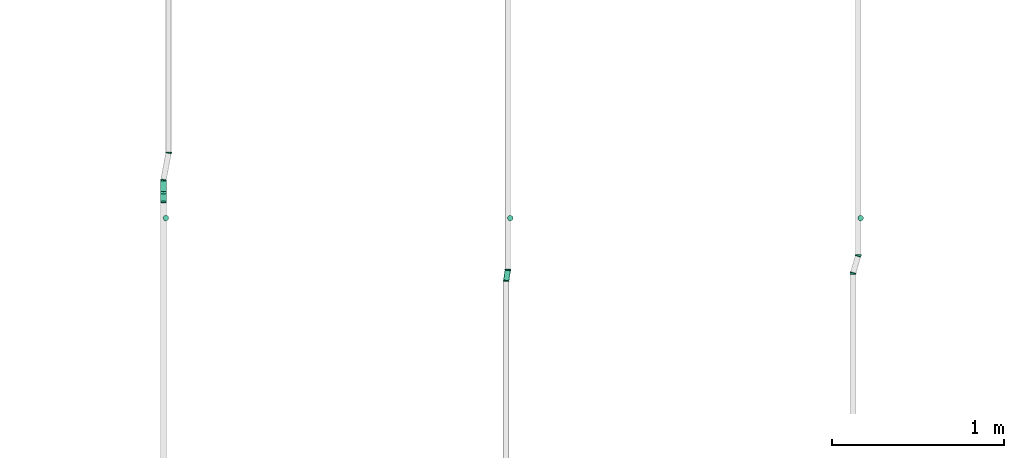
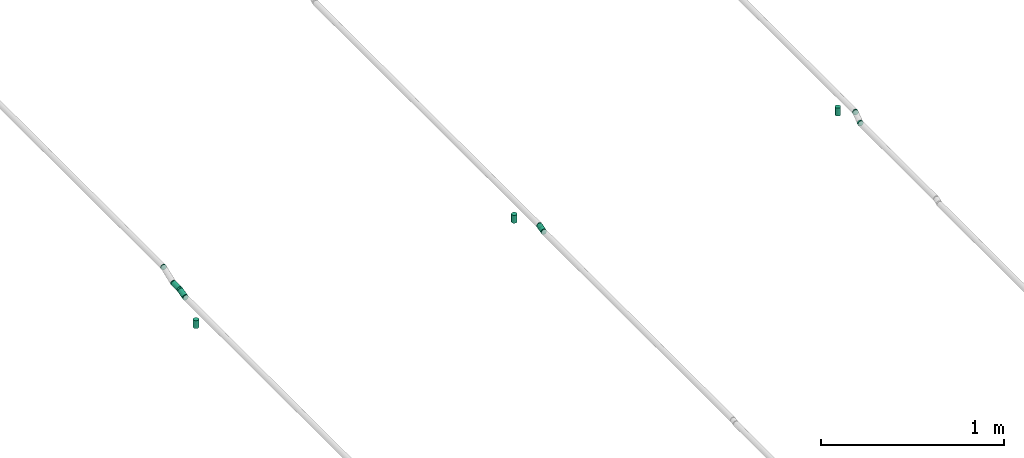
# One storey, part 20 of 32: 8 flow fittings, 3 flow segments, 3 flow terminals.
"""IFC2X3 building model written with IfcOpenShell, lengths in millimetres."""

from ifc_helpers import new_model, entity, si_unit, converted_unit, derived_unit, direction, frame, origin_with_axes, origin_2d_with_axis, place, context, subcontext, project, spatial, hollow_circle, extrude, open_shell, surface_model, source, transform, mapped, type_object, element, save


model = new_model("IFC2X3")

# Units and contexts
model_context = context("Model", 3, precision=0.01, world=frame((0.0, 4.29681676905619e-09, 0.0)), true_north=direction((4.01073788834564e-13, 1.0)))
plan_context = context("Plan", 3, precision=0.01, world=frame((0.0, 4.29681676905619e-09, 0.0)), true_north=direction((4.01073788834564e-13, 1.0)))
body_context = subcontext(model_context, "Body", "Model", "MODEL_VIEW")
ifc_project = project(units=[converted_unit("PLANEANGLEUNIT", "DEGREE", entity("IfcPositiveLengthMeasure", 0.0174532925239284), si_unit("PLANEANGLEUNIT", "RADIAN"), dimensions=[0, 0, 0, 0, 0, 0, 0]), si_unit("AREAUNIT", "SQUARE_METRE"), si_unit("LENGTHUNIT", "METRE", prefix="MILLI"), si_unit("MASSUNIT", "GRAM", prefix="KILO"), si_unit("POWERUNIT", "WATT"), si_unit("PRESSUREUNIT", "PASCAL", prefix="KILO"), si_unit("FORCEUNIT", "NEWTON", prefix="KILO"), si_unit("ELECTRICVOLTAGEUNIT", "VOLT"), si_unit("ELECTRICCURRENTUNIT", "AMPERE"), si_unit("THERMODYNAMICTEMPERATUREUNIT", "DEGREE_CELSIUS"), si_unit("TIMEUNIT", "SECOND"), si_unit("VOLUMEUNIT", "CUBIC_METRE"), derived_unit("LINEARVELOCITYUNIT", [(si_unit("LENGTHUNIT", "METRE"), 1), (si_unit("TIMEUNIT", "SECOND"), -1)]), derived_unit("VOLUMETRICFLOWRATEUNIT", [(si_unit("VOLUMEUNIT", "CUBIC_METRE"), 1), (si_unit("TIMEUNIT", "SECOND"), -1)]), derived_unit("THERMALTRANSMITTANCEUNIT", [(si_unit("POWERUNIT", "WATT"), 1), (si_unit("THERMODYNAMICTEMPERATUREUNIT", "KELVIN"), -1), (si_unit("AREAUNIT", "SQUARE_METRE"), -1)]), derived_unit("SOUNDPRESSUREUNIT", [(si_unit("PRESSUREUNIT", "PASCAL"), 1)])], contexts=[model_context, plan_context])

# Site, building, storey
site_placement = place(None, frame((0.0, -4.29681676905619e-09, 0.0), z_axis=(0.0, 0.0, 1.0), x_axis=(1.0, 0.0, 0.0)))
site = spatial("IfcSite", under=ifc_project, at=site_placement, CompositionType="ELEMENT")
building_placement = place(site_placement, frame((0.0, 4.29681676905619e-09, 0.0), z_axis=(0.0, 0.0, 1.0), x_axis=(1.0, 0.0, 0.0)))
building = spatial("IfcBuilding", under=site, at=building_placement, Name="mc-building", CompositionType="ELEMENT")
storey_placement = place(building_placement, frame((0.0, 0.0, 205200.0), z_axis=(0.0, 0.0, 1.0), x_axis=(1.0, 0.0, 0.0)))
storey = spatial("IfcBuildingStorey", under=building, at=storey_placement, Name="Nivå D + 1,2 m", CompositionType="ELEMENT", Elevation=205200.0)

# Flow fittings
pipe_fitting_type = type_object("IfcPipeFittingType", Name="magi_pipe_fe_elbow_short_001", PredefinedType="BEND")
shared_shape_1 = source(origin_with_axes(), body_context, "Body", "SurfaceModel", [
    surface_model("IfcShellBasedSurfaceModel", [(-3.14138, 4.37404, -16.32415), (-3.14138, 0.0, -16.9), (-3.14138, 11.9501, -11.9501), (-3.14138, 8.45, -14.63583), (-3.14138, 16.32415, -4.37404), (-3.14138, 14.63583, -8.45), (-3.14138, -14.63583, -8.45), (-3.14138, -16.32415, -4.37404), (-3.14138, -8.45, 14.63583), (-3.14138, -11.9501, -11.9501), (-3.14138, -8.45, -14.63583), (-3.14138, -4.37404, -16.32415), (-3.14138, -16.9, 0.0), (-3.14138, -16.32415, 4.37404), (-3.14138, 11.9501, 11.9501), (-3.14138, 16.32415, 4.37404), (-3.14138, 14.63583, 8.45), (-3.14138, 4.37404, 16.32415), (-3.14138, 8.45, 14.63583), (-3.14138, -14.63583, 8.45), (-3.14138, -11.9501, 11.9501), (-3.14138, -4.37404, 16.32415), (-3.14138, 0.0, 16.9), (-3.14138, 16.9, 0.0), (0.07922, 16.62347, -4.37404), (3.08757, 0.57892, -16.9), (2.28149, 4.87804, -16.32415), (1.53034, 8.88419, -14.63583), (0.39036, 14.96407, -8.45), (0.88531, 12.32435, -11.9501), (6.09593, -15.46563, -4.37404), (4.64481, -7.72635, -14.63583), (5.78479, -13.80623, -8.45), (5.28984, -11.16651, -11.9501), (3.89366, -3.7202, -16.32415), (6.09593, -15.46563, 4.37404), (6.20205, -16.03162, 0.0), (0.88531, 12.32435, 11.9501), (0.07922, 16.62347, 4.37404), (0.39036, 14.96407, 8.45), (1.53034, 8.88419, 14.63583), (2.28149, 4.87804, 16.32415), (4.64481, -7.72635, 14.63583), (5.28984, -11.16651, 11.9501), (5.78479, -13.80623, 8.45), (3.08757, 0.57892, 16.9), (3.89366, -3.7202, 16.32415), (-0.0269, 17.18946, 0.0), (-1.57743, 16.97252, 0.0), (1.55047, -16.68244, 0.0)], [open_shell([[[0, 1, 2]], [[3, 0, 2]], [[4, 5, 2]], [[6, 2, 1]], [[2, 7, 8]], [[9, 6, 10]], [[1, 11, 10]], [[1, 10, 6]], [[6, 7, 2]], [[12, 13, 7]], [[4, 2, 14]], [[14, 15, 4]], [[16, 15, 14]], [[17, 18, 14]], [[2, 8, 14]], [[17, 14, 8]], [[19, 20, 13]], [[13, 20, 7]], [[21, 22, 8]], [[20, 8, 7]], [[8, 22, 17]], [[23, 4, 15]], [[24, 25, 26]], [[24, 26, 27]], [[28, 24, 27]], [[28, 27, 29]], [[25, 24, 30]], [[31, 32, 33]], [[31, 34, 25]], [[31, 30, 32]], [[25, 30, 31]], [[30, 35, 36]], [[30, 24, 37]], [[38, 39, 24]], [[39, 37, 24]], [[40, 41, 30]], [[30, 37, 40]], [[30, 41, 42]], [[35, 43, 44]], [[30, 43, 35]], [[42, 45, 46]], [[30, 42, 43]], [[41, 45, 42]], [[47, 38, 24]], [[43, 8, 20]], [[44, 20, 19]], [[46, 21, 8]], [[41, 17, 22]], [[22, 21, 46]], [[35, 19, 13]], [[16, 14, 39]], [[18, 37, 14]], [[48, 15, 38]], [[48, 23, 15]], [[38, 15, 16]], [[40, 18, 17]], [[13, 12, 49]], [[42, 46, 8]], [[8, 43, 42]], [[46, 45, 22]], [[19, 35, 44]], [[20, 44, 43]], [[35, 49, 36]], [[39, 38, 16]], [[47, 48, 38]], [[40, 17, 41]], [[18, 40, 37]], [[39, 14, 37]], [[41, 22, 45]], [[13, 49, 35]], [[0, 25, 1]], [[34, 11, 1]], [[28, 2, 5]], [[2, 29, 3]], [[3, 27, 0]], [[4, 24, 5]], [[49, 12, 7]], [[30, 49, 7]], [[33, 9, 10]], [[7, 6, 30]], [[9, 32, 6]], [[31, 10, 11]], [[4, 23, 48]], [[48, 47, 24]], [[24, 28, 5]], [[3, 29, 27]], [[0, 27, 26]], [[2, 28, 29]], [[26, 25, 0]], [[31, 11, 34]], [[33, 10, 31]], [[6, 32, 30]], [[30, 36, 49]], [[32, 9, 33]], [[25, 34, 1]], [[4, 48, 24]]])]),
])
for number, where, z_axis, x_axis, name in (
    (1, (341497.5, 464341.03146, 4444.43145999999), (0.0, 0.0, 1.0), (0.184289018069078, 0.982872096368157, 0.0), "magi_pipe_fe_elbow_short_001"),
    (2, (341467.5, 464181.03146, 4444.43145999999), (0.0, 0.0, 1.0), (-0.184289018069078, -0.982872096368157, 0.0), "magi_pipe_fe_elbow_short_001"),
):
    element("IfcFlowFitting", number, at=place(storey_placement, frame(where, z_axis=z_axis, x_axis=x_axis)), inside=storey, type_object=pipe_fitting_type, Name=name, context=body_context, shape_type="MappedRepresentation", body=[
        mapped(shared_shape_1, transform((0.0, 0.0, 0.0), scale=1.0)),
    ])
shared_shape_2 = source(origin_with_axes(), body_context, "Body", "SurfaceModel", [
    surface_model("IfcShellBasedSurfaceModel", [(-4.44985, 4.37404, -16.32415), (-4.44985, 0.0, -16.9), (-4.44985, 11.9501, -11.9501), (-4.44985, 8.45, -14.63583), (-4.44985, 16.32415, -4.37404), (-4.44985, 14.63583, -8.45), (-4.44985, -14.63583, -8.45), (-4.44985, -16.32415, -4.37404), (-4.44985, -8.45, 14.63583), (-4.44985, -11.9501, -11.9501), (-4.44985, -8.45, -14.63583), (-4.44985, -4.37404, -16.32415), (-4.44985, -16.9, 0.0), (-4.44985, -16.32415, 4.37404), (-4.44985, 11.9501, 11.9501), (-4.44985, 16.32415, 4.37404), (-4.44985, 14.63583, 8.45), (-4.44985, 4.37404, 16.32415), (-4.44985, 8.45, 14.63583), (-4.44985, -14.63583, 8.45), (-4.44985, -11.9501, 11.9501), (-4.44985, -4.37404, 16.32415), (-4.44985, 0.0, 16.9), (-4.44985, 16.9, 0.0), (3.16614, 5.37671, -16.32415), (6.48525, -7.01037, -14.63583), (4.29823, 1.15171, -16.9), (0.07323, 16.91962, -4.37404), (2.11121, 9.31378, -14.63583), (0.5102, 15.28883, -8.45), (1.20531, 12.69462, -11.9501), (6.48525, -7.01037, 14.63583), (8.08626, -12.98542, -8.45), (7.39114, -10.39121, -11.9501), (5.43031, -3.07329, -16.32415), (8.52323, -14.61621, -4.37404), (8.52323, -14.61621, 4.37404), (8.67227, -15.17244, 0.0), (-0.07581, 17.47585, 0.0), (0.07323, 16.91962, 4.37404), (0.5102, 15.28883, 8.45), (1.20531, 12.69462, 11.9501), (2.11121, 9.31378, 14.63583), (3.16614, 5.37671, 16.32415), (7.39114, -10.39121, 11.9501), (8.08626, -12.98542, 8.45), (4.29823, 1.15171, 16.9), (5.43031, -3.07329, 16.32415), (-2.24396, 17.04458, 0.0), (2.16782, -16.46625, 0.0)], [open_shell([[[0, 1, 2]], [[3, 0, 2]], [[4, 5, 2]], [[6, 2, 1]], [[2, 7, 8]], [[9, 6, 10]], [[1, 11, 10]], [[1, 10, 6]], [[6, 7, 2]], [[12, 13, 7]], [[4, 2, 14]], [[14, 15, 4]], [[16, 15, 14]], [[17, 18, 14]], [[2, 8, 14]], [[17, 14, 8]], [[19, 20, 13]], [[13, 20, 7]], [[21, 22, 8]], [[20, 8, 7]], [[8, 22, 17]], [[23, 4, 15]], [[24, 25, 26]], [[27, 24, 28]], [[29, 27, 28]], [[29, 28, 30]], [[31, 32, 24]], [[25, 32, 33]], [[25, 34, 26]], [[24, 32, 25]], [[31, 35, 32]], [[35, 36, 37]], [[27, 31, 24]], [[38, 39, 40]], [[38, 40, 41]], [[41, 42, 43]], [[43, 27, 41]], [[43, 31, 27]], [[36, 44, 45]], [[36, 35, 44]], [[31, 46, 47]], [[35, 31, 44]], [[43, 46, 31]], [[41, 27, 38]], [[19, 44, 20]], [[31, 8, 20]], [[47, 21, 8]], [[46, 22, 21]], [[17, 22, 43]], [[45, 19, 13]], [[16, 14, 40]], [[18, 41, 14]], [[48, 15, 39]], [[48, 23, 15]], [[39, 15, 16]], [[42, 18, 17]], [[13, 12, 49]], [[31, 47, 8]], [[20, 44, 31]], [[47, 46, 21]], [[45, 13, 36]], [[19, 45, 44]], [[49, 37, 36]], [[40, 39, 16]], [[38, 48, 39]], [[42, 17, 43]], [[18, 42, 41]], [[40, 14, 41]], [[43, 22, 46]], [[13, 49, 36]], [[1, 34, 11]], [[0, 26, 1]], [[5, 29, 2]], [[2, 28, 3]], [[0, 3, 28]], [[5, 4, 27]], [[49, 12, 7]], [[35, 49, 7]], [[33, 9, 10]], [[7, 6, 35]], [[9, 32, 6]], [[25, 10, 11]], [[4, 23, 48]], [[48, 38, 27]], [[27, 29, 5]], [[28, 2, 30]], [[24, 0, 28]], [[2, 29, 30]], [[24, 26, 0]], [[25, 11, 34]], [[33, 10, 25]], [[6, 32, 35]], [[35, 37, 49]], [[32, 9, 33]], [[26, 34, 1]], [[4, 48, 27]]])]),
])
for number, where, z_axis, x_axis, name in (
    (3, (341467.5, 464109.41222, 4444.43145999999), (1.0, 0.0, 0.0), (0.0, -1.0, 0.0), "magi_pipe_fe_elbow_short_001"),
    (4, (341467.5, 464050.93146, 4428.76157999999), (1.0, 0.0, 0.0), (0.0, 1.0, 0.0), "magi_pipe_fe_elbow_short_001"),
):
    element("IfcFlowFitting", number, at=place(storey_placement, frame(where, z_axis=z_axis, x_axis=x_axis)), inside=storey, type_object=pipe_fitting_type, Name=name, context=body_context, shape_type="MappedRepresentation", body=[
        mapped(shared_shape_2, transform((0.0, 0.0, 0.0), scale=1.0)),
    ])
shared_shape_3 = source(origin_with_axes(), body_context, "Body", "SurfaceModel", [
    surface_model("IfcShellBasedSurfaceModel", [(-2.58338, 4.37404, -16.32415), (-2.58338, 0.0, -16.9), (-2.58338, 11.9501, -11.9501), (-2.58338, 8.45, -14.63583), (-2.58338, 16.32415, -4.37404), (-2.58338, 14.63583, -8.45), (-2.58338, -14.63583, -8.45), (-2.58338, -16.32415, -4.37404), (-2.58338, -8.45, 14.63583), (-2.58338, -11.9501, -11.9501), (-2.58338, -8.45, -14.63583), (-2.58338, -4.37404, -16.32415), (-2.58338, -16.9, 0.0), (-2.58338, -16.32415, 4.37404), (-2.58338, 11.9501, 11.9501), (-2.58338, 16.32415, 4.37404), (-2.58338, 14.63583, 8.45), (-2.58338, 4.37404, 16.32415), (-2.58338, 8.45, 14.63583), (-2.58338, -14.63583, 8.45), (-2.58338, -11.9501, 11.9501), (-2.58338, -4.37404, 16.32415), (-2.58338, 0.0, 16.9), (-2.58338, 16.9, 0.0), (0.73726, 12.20391, -11.9501), (2.55337, 0.39261, -16.9), (1.88863, 4.71584, -16.32415), (1.26918, 8.74446, -14.63583), (0.32909, 14.85843, -8.45), (0.07251, 16.52714, -4.37404), (4.77765, -14.07322, -8.45), (3.83756, -7.95924, -14.63583), (4.36949, -11.41869, -11.9501), (3.21812, -3.93063, -16.32415), (4.36949, -11.41869, 11.9501), (5.03424, -15.74192, -4.37404), (5.12175, -16.31109, 0.0), (0.73726, 12.20391, 11.9501), (0.07251, 16.52714, 4.37404), (0.32909, 14.85843, 8.45), (1.26918, 8.74446, 14.63583), (1.88863, 4.71584, 16.32415), (2.55337, 0.39261, 16.9), (5.03424, -15.74192, 4.37404), (4.77765, -14.07322, 8.45), (3.83756, -7.95924, 14.63583), (3.21812, -3.93063, 16.32415), (-0.015, 17.0963, 0.0), (-1.29545, 16.94915, 0.0), (1.28042, -16.75256, 0.0)], [open_shell([[[0, 1, 2]], [[3, 0, 2]], [[4, 5, 2]], [[6, 2, 1]], [[2, 7, 8]], [[9, 6, 10]], [[1, 11, 10]], [[1, 10, 6]], [[6, 7, 2]], [[12, 13, 7]], [[4, 2, 14]], [[14, 15, 4]], [[16, 15, 14]], [[17, 18, 14]], [[2, 8, 14]], [[17, 14, 8]], [[19, 20, 13]], [[13, 20, 7]], [[21, 22, 8]], [[20, 8, 7]], [[8, 22, 17]], [[23, 4, 15]], [[24, 25, 26]], [[24, 26, 27]], [[24, 28, 29]], [[24, 29, 25]], [[25, 29, 30]], [[31, 30, 32]], [[30, 31, 33]], [[25, 30, 33]], [[30, 34, 35]], [[35, 34, 36]], [[37, 30, 29]], [[29, 38, 37]], [[37, 38, 39]], [[37, 40, 41]], [[37, 34, 30]], [[42, 37, 41]], [[43, 34, 44]], [[36, 34, 43]], [[45, 42, 46]], [[42, 45, 34]], [[37, 42, 34]], [[47, 38, 29]], [[34, 8, 20]], [[20, 19, 44]], [[42, 22, 21]], [[22, 42, 17]], [[21, 8, 45]], [[43, 19, 13]], [[16, 14, 39]], [[18, 37, 14]], [[48, 15, 38]], [[48, 23, 15]], [[38, 15, 16]], [[40, 18, 17]], [[13, 12, 49]], [[45, 46, 21]], [[8, 34, 45]], [[46, 42, 21]], [[19, 43, 44]], [[20, 44, 34]], [[43, 49, 36]], [[39, 38, 16]], [[47, 48, 38]], [[40, 17, 41]], [[18, 40, 37]], [[39, 14, 37]], [[41, 17, 42]], [[13, 49, 43]], [[11, 1, 25]], [[1, 0, 25]], [[28, 2, 5]], [[3, 2, 24]], [[3, 27, 0]], [[4, 29, 5]], [[49, 12, 7]], [[35, 49, 7]], [[32, 9, 10]], [[7, 6, 35]], [[9, 30, 6]], [[31, 10, 11]], [[4, 23, 48]], [[48, 47, 29]], [[29, 28, 5]], [[3, 24, 27]], [[0, 27, 26]], [[2, 28, 24]], [[26, 25, 0]], [[31, 11, 33]], [[32, 10, 31]], [[6, 30, 35]], [[35, 36, 49]], [[30, 9, 32]], [[25, 33, 11]], [[4, 48, 29]]])]),
])
for number, where, z_axis, x_axis, name in (
    (5, (343472.5, 463658.46745, 4444.43145999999), (0.0, 0.0, 1.0), (0.15197505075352, 0.988384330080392, 0.0), "magi_pipe_fe_elbow_short_001"),
    (6, (343462.5, 463593.43146, 4444.43145999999), (0.0, 0.0, 1.0), (-0.15197505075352, -0.988384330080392, 0.0), "magi_pipe_fe_elbow_short_001"),
):
    element("IfcFlowFitting", number, at=place(storey_placement, frame(where, z_axis=z_axis, x_axis=x_axis)), inside=storey, type_object=pipe_fitting_type, Name=name, context=body_context, shape_type="MappedRepresentation", body=[
        mapped(shared_shape_3, transform((0.0, 0.0, 0.0), scale=1.0)),
    ])
shared_shape_4 = source(origin_with_axes(), body_context, "Body", "SurfaceModel", [
    surface_model("IfcShellBasedSurfaceModel", [(-4.73386, 4.37404, -16.32415), (-4.73386, 0.0, -16.9), (-4.73386, 11.9501, -11.9501), (-4.73386, 8.45, -14.63583), (-4.73386, 16.32415, -4.37404), (-4.73386, 14.63583, -8.45), (-4.73386, -14.63583, -8.45), (-4.73386, -16.32415, -4.37404), (-4.73386, -8.45, 14.63583), (-4.73386, -11.9501, -11.9501), (-4.73386, -8.45, -14.63583), (-4.73386, -4.37404, -16.32415), (-4.73386, -16.9, 0.0), (-4.73386, -16.32415, 4.37404), (-4.73386, 11.9501, 11.9501), (-4.73386, 16.32415, 4.37404), (-4.73386, 14.63583, 8.45), (-4.73386, 4.37404, 16.32415), (-4.73386, 8.45, 14.63583), (-4.73386, -14.63583, 8.45), (-4.73386, -11.9501, 11.9501), (-4.73386, -4.37404, 16.32415), (-4.73386, 0.0, 16.9), (-4.73386, 16.9, 0.0), (1.26877, 12.7908, -11.9501), (4.55172, 1.30049, -16.9), (3.35008, 5.50624, -16.32415), (2.23032, 9.42537, -14.63583), (0.53095, 15.37319, -8.45), (0.06713, 16.99655, -4.37404), (7.83466, -10.18982, -11.9501), (7.83466, -10.18982, 11.9501), (6.87311, -6.82439, -14.63583), (5.75336, -2.90526, -16.32415), (9.03631, -14.39557, -4.37404), (8.57249, -12.77221, -8.45), (9.1945, -14.94926, 0.0), (9.03631, -14.39557, 4.37404), (0.06713, 16.99655, 4.37404), (0.53095, 15.37319, 8.45), (1.26877, 12.7908, 11.9501), (2.23032, 9.42537, 14.63583), (3.35008, 5.50624, 16.32415), (6.87311, -6.82439, 14.63583), (4.55172, 1.30049, 16.9), (8.57249, -12.77221, 8.45), (5.75336, -2.90526, 16.32415), (-0.09107, 17.55024, 0.0), (-2.38981, 17.06335, 0.0), (2.29829, -16.40995, 0.0)], [open_shell([[[0, 1, 2]], [[3, 0, 2]], [[4, 5, 2]], [[6, 2, 1]], [[2, 7, 8]], [[9, 6, 10]], [[1, 11, 10]], [[1, 10, 6]], [[6, 7, 2]], [[12, 13, 7]], [[4, 2, 14]], [[14, 15, 4]], [[16, 15, 14]], [[17, 18, 14]], [[2, 8, 14]], [[17, 14, 8]], [[19, 20, 13]], [[13, 20, 7]], [[21, 22, 8]], [[20, 8, 7]], [[8, 22, 17]], [[23, 4, 15]], [[24, 25, 26]], [[24, 26, 27]], [[24, 28, 29]], [[24, 29, 25]], [[30, 25, 31]], [[25, 32, 33]], [[25, 30, 32]], [[30, 34, 35]], [[36, 34, 37]], [[34, 30, 37]], [[31, 25, 29]], [[38, 39, 29]], [[39, 40, 29]], [[40, 41, 42]], [[40, 43, 29]], [[44, 40, 42]], [[30, 45, 37]], [[31, 45, 30]], [[43, 44, 46]], [[31, 29, 43]], [[44, 43, 40]], [[29, 47, 38]], [[20, 19, 31]], [[43, 8, 20]], [[46, 21, 8]], [[44, 22, 21]], [[17, 22, 42]], [[13, 45, 19]], [[16, 14, 39]], [[18, 40, 14]], [[48, 15, 38]], [[48, 23, 15]], [[38, 15, 16]], [[41, 18, 17]], [[13, 12, 49]], [[43, 46, 8]], [[20, 31, 43]], [[46, 44, 21]], [[45, 13, 37]], [[19, 45, 31]], [[49, 36, 37]], [[39, 38, 16]], [[47, 48, 38]], [[41, 17, 42]], [[18, 41, 40]], [[39, 14, 40]], [[42, 22, 44]], [[13, 49, 37]], [[1, 33, 11]], [[0, 25, 1]], [[5, 28, 2]], [[2, 27, 3]], [[29, 5, 4]], [[26, 0, 3]], [[49, 12, 7]], [[34, 49, 7]], [[30, 9, 10]], [[7, 6, 34]], [[9, 35, 6]], [[32, 10, 11]], [[4, 23, 48]], [[48, 47, 29]], [[29, 28, 5]], [[27, 2, 24]], [[26, 3, 27]], [[2, 28, 24]], [[26, 25, 0]], [[32, 11, 33]], [[30, 10, 32]], [[6, 35, 34]], [[34, 36, 49]], [[35, 9, 30]], [[25, 33, 1]], [[4, 48, 29]]])]),
])
for number, where, z_axis, x_axis, name in (
    (7, (345512.5, 463742.23146, 4434.19579999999), (0.0, 0.0, 1.0), (0.274720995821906, 0.961523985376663, 0.0), "magi_pipe_fe_elbow_short_001"),
    (8, (345482.5, 463637.23146, 4434.19579999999), (0.0, 0.0, 1.0), (-0.274720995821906, -0.961523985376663, 0.0), "magi_pipe_fe_elbow_short_001"),
):
    element("IfcFlowFitting", number, at=place(storey_placement, frame(where, z_axis=z_axis, x_axis=x_axis)), inside=storey, type_object=pipe_fitting_type, Name=name, context=body_context, shape_type="MappedRepresentation", body=[
        mapped(shared_shape_4, transform((0.0, 0.0, 0.0), scale=1.0)),
    ])

# Flow segments
pipe_segment_type = type_object("IfcPipeSegmentType", Name="Stålrør normaltykke", PredefinedType="RIGIDSEGMENT")
shared_shape_5 = source(origin_with_axes(), body_context, "Body", "SweptSolid", [
    extrude(hollow_circle(Radius=16.9, WallThickness=2.0, at=origin_2d_with_axis()), frame((0.0, 0.0, 0.0), z_axis=(1.0, 0.0, 0.0), x_axis=(0.0, 1.0, 0.0)), (0.0, 0.0, 1.0), 60.7),
])
flow_segment_1_placement = place(storey_placement, frame((343472.10739, 463655.91407, 4444.43145999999), z_axis=(0.0, 0.0, 1.0), x_axis=(-0.15197505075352, -0.988384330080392, 0.0)))
element("IfcFlowSegment", 9, at=flow_segment_1_placement, inside=storey, type_object=pipe_segment_type, Name="Stålrør normaltykke", context=body_context, shape_type="MappedRepresentation", body=[
    mapped(shared_shape_5, transform((0.0, 0.0, 0.0), scale=1.0)),
])
shared_shape_6 = source(origin_with_axes(), body_context, "Body", "SweptSolid", [
    extrude(hollow_circle(Radius=16.9, WallThickness=2.0, at=origin_2d_with_axis()), frame((0.0, 0.0, 0.0), z_axis=(1.0, 0.0, 0.0), x_axis=(0.0, 1.0, 0.0)), (0.0, 0.0, 1.0), 51.9),
])
flow_segment_2_placement = place(storey_placement, frame((341467.5, 464105.11399, 4443.27974999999), z_axis=(0.0, -0.258818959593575, 0.965925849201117), x_axis=(0.0, -0.965925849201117, -0.258818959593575)))
element("IfcFlowSegment", 10, at=flow_segment_2_placement, inside=storey, type_object=pipe_segment_type, Name="Stålrør normaltykke", context=body_context, shape_type="MappedRepresentation", body=[
    mapped(shared_shape_6, transform((0.0, 0.0, 0.0), scale=1.0)),
])
shared_shape_7 = source(origin_with_axes(), body_context, "Body", "SweptSolid", [
    extrude(hollow_circle(Radius=16.9, WallThickness=2.0, at=origin_2d_with_axis()), frame((0.0, 0.0, 0.0), z_axis=(1.0, 0.0, 0.0), x_axis=(0.0, 1.0, 0.0)), (0.0, 0.0, 1.0), 64.0),
])
flow_segment_3_placement = place(storey_placement, frame((341467.5, 464177.89008, 4444.43145999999), z_axis=(0.0, 0.0, 1.0), x_axis=(0.0, -1.0, 0.0)))
element("IfcFlowSegment", 11, at=flow_segment_3_placement, inside=storey, type_object=pipe_segment_type, Name="Stålrør normaltykke", context=body_context, shape_type="MappedRepresentation", body=[
    mapped(shared_shape_7, transform((0.0, 0.0, 0.0), scale=1.0)),
])

# Flow terminals
fire_suppression_terminal_type = type_object("IfcFireSuppressionTerminalType", Name="SP-15-K80-68DGR-STD-NEDOVER", PredefinedType="NOTDEFINED")
shared_shape_8 = source(origin_with_axes(), body_context, "Body", "SurfaceModel", [
    surface_model("IfcShellBasedSurfaceModel", [(4.1411, -15.45481, 53.0), (8.0, -13.85641, 53.0), (11.31371, -11.31371, 53.0), (-8.0, -13.85641, 53.0), (15.45481, -4.1411, 53.0), (16.0, 0.0, 53.0), (13.85641, -8.0, 53.0), (0.0, -16.0, 53.0), (-4.1411, -15.45481, 53.0), (-13.85641, -8.0, 53.0), (-11.31371, -11.31371, 53.0), (-15.45481, -4.1411, 53.0), (15.45481, 4.1411, 53.0), (13.85641, 8.0, 53.0), (11.31371, 11.31371, 53.0), (-4.1411, 15.45481, 53.0), (8.0, 13.85641, 53.0), (4.1411, 15.45481, 53.0), (0.0, 16.0, 53.0), (-13.85641, 8.0, 53.0), (-15.45481, 4.1411, 53.0), (-16.0, 0.0, 53.0), (-11.31371, 11.31371, 53.0), (-8.0, 13.85641, 53.0), (0.0, 16.0, 0.0), (4.1411, 15.45481, 0.0), (8.0, 13.85641, 0.0), (-4.1411, 15.45481, 0.0), (11.31371, 11.31371, 0.0), (13.85641, 8.0, 0.0), (15.45481, 4.1411, 0.0), (-15.45481, -4.1411, 0.0), (-11.31371, 11.31371, 0.0), (-8.0, 13.85641, 0.0), (-13.85641, 8.0, 0.0), (-15.45481, 4.1411, 0.0), (-16.0, 0.0, 0.0), (4.1411, -15.45481, 0.0), (16.0, 0.0, 0.0), (15.45481, -4.1411, 0.0), (13.85641, -8.0, 0.0), (11.31371, -11.31371, 0.0), (8.0, -13.85641, 0.0), (-8.0, -13.85641, 0.0), (-13.85641, -8.0, 0.0), (-11.31371, -11.31371, 0.0), (0.0, -16.0, 0.0), (-4.1411, -15.45481, 0.0)], [open_shell([[[0, 1, 2]], [[3, 0, 2]], [[4, 5, 2]], [[4, 2, 6]], [[3, 2, 5]], [[7, 3, 8]], [[7, 0, 3]], [[3, 9, 10]], [[9, 3, 11]], [[5, 11, 3]], [[5, 12, 11]], [[12, 13, 14]], [[15, 12, 14]], [[16, 17, 18]], [[14, 16, 15]], [[18, 15, 16]], [[11, 19, 20]], [[21, 11, 20]], [[22, 15, 23]], [[15, 22, 19]], [[19, 11, 15]], [[11, 12, 15]], [[24, 25, 26]], [[27, 24, 26]], [[28, 29, 30]], [[27, 26, 28]], [[27, 28, 31]], [[27, 32, 33]], [[32, 27, 34]], [[34, 31, 35]], [[31, 34, 27]], [[35, 31, 36]], [[28, 30, 31]], [[37, 38, 39]], [[37, 39, 40]], [[41, 42, 37]], [[41, 37, 40]], [[38, 37, 43]], [[44, 43, 45]], [[43, 44, 31]], [[43, 46, 47]], [[43, 31, 38]], [[37, 46, 43]], [[38, 31, 30]], [[11, 31, 44]], [[45, 9, 44]], [[3, 43, 47]], [[45, 43, 10]], [[8, 47, 46]], [[31, 21, 36]], [[31, 11, 21]], [[44, 9, 11]], [[45, 10, 9]], [[3, 10, 43]], [[47, 8, 3]], [[46, 7, 8]], [[0, 37, 42]], [[41, 1, 42]], [[6, 40, 39]], [[41, 40, 2]], [[4, 39, 38]], [[37, 0, 7]], [[42, 1, 0]], [[41, 2, 1]], [[40, 6, 2]], [[4, 6, 39]], [[38, 5, 4]], [[37, 7, 46]], [[12, 38, 30]], [[13, 30, 29]], [[16, 26, 25]], [[17, 25, 24]], [[30, 13, 12]], [[12, 5, 38]], [[28, 14, 13]], [[28, 26, 14]], [[14, 26, 16]], [[25, 17, 16]], [[28, 13, 29]], [[24, 18, 17]], [[15, 27, 33]], [[32, 23, 33]], [[19, 34, 35]], [[32, 34, 22]], [[20, 35, 36]], [[27, 15, 18]], [[33, 23, 15]], [[32, 22, 23]], [[34, 19, 22]], [[20, 19, 35]], [[36, 21, 20]], [[27, 18, 24]]])]),
])
for number, where, z_axis, x_axis in (
    (12, (345526.9, 463959.76745, 4333.43145999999), (0.0, 0.0, -1.0), (1.0, 0.0, 0.0)),
    (13, (343486.9, 463959.76745, 4333.43145999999), (0.0, 0.0, -1.0), (1.0, 0.0, 0.0)),
    (14, (341481.9, 463959.76745, 4333.43145999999), (0.0, 0.0, -1.0), (1.0, 0.0, 0.0)),
):
    element("IfcFlowTerminal", number, at=place(storey_placement, frame(where, z_axis=z_axis, x_axis=x_axis)), inside=storey, type_object=fire_suppression_terminal_type, Name="SP-15-K80-68DGR-STD-NEDOVER", context=body_context, shape_type="MappedRepresentation", body=[
        mapped(shared_shape_8, transform((0.0, 0.0, 0.0), scale=1.0)),
    ])

save(model, "model.ifc")
